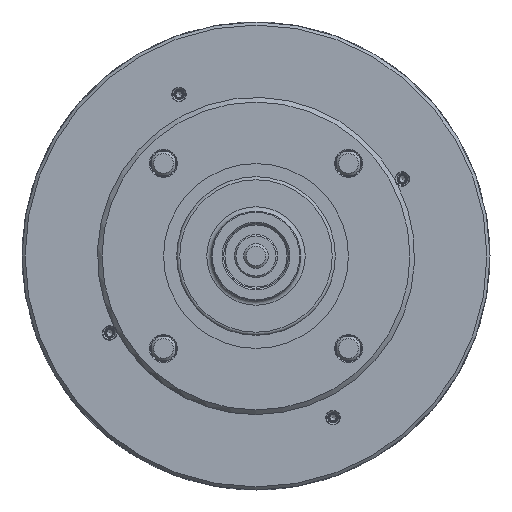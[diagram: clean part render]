
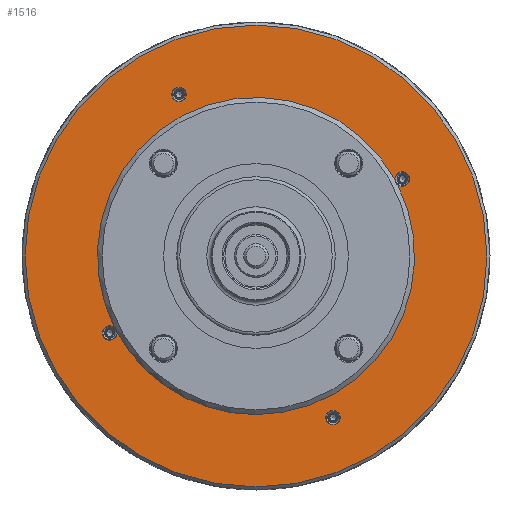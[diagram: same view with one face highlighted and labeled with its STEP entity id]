
A CAD part, left-side view. The second image highlights one B-rep face of the part: STEP entity #1516.
In plain terms, the highlighted planar face has unit normal (-1, 0, 0).
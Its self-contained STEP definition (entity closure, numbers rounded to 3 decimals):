
#691 = AXIS2_PLACEMENT_3D ( 'NONE', #88157, #54325, #10406 ) ;
#1516 = ADVANCED_FACE ( 'NONE', ( #65347, #99688, #5075, #109248 ), #22527, .F. ) ;
#4771 = CARTESIAN_POINT ( 'NONE',  ( -107., 0., 0. ) ) ;
#5075 = FACE_OUTER_BOUND ( 'NONE', #24438, .T. ) ;
#8503 = EDGE_CURVE ( 'NONE', #103588, #108823, #17293, .T. ) ;
#9232 = CARTESIAN_POINT ( 'NONE',  ( -107., -50., -105. ) ) ;
#10406 = DIRECTION ( 'NONE',  ( 0., 0., -1. ) ) ;
#10868 = CARTESIAN_POINT ( 'NONE',  ( -107., 50., 100.25 ) ) ;
#12436 = VERTEX_POINT ( 'NONE', #52125 ) ;
#12660 = DIRECTION ( 'NONE',  ( 0., 0., -1. ) ) ;
#13318 = CIRCLE ( 'NONE', #691, 4.75 ) ;
#13773 = EDGE_CURVE ( 'NONE', #108823, #12436, #48960, .T. ) ;
#15724 = CARTESIAN_POINT ( 'NONE',  ( -107., -103., 0. ) ) ;
#16125 = CIRCLE ( 'NONE', #79106, 4.75 ) ;
#17293 = CIRCLE ( 'NONE', #20913, 103. ) ;
#18193 = CARTESIAN_POINT ( 'NONE',  ( -107., 0., -150. ) ) ;
#19047 = VERTEX_POINT ( 'NONE', #42834 ) ;
#19636 = CIRCLE ( 'NONE', #100609, 150. ) ;
#20565 = CARTESIAN_POINT ( 'NONE',  ( -107., -95., 50. ) ) ;
#20913 = AXIS2_PLACEMENT_3D ( 'NONE', #60033, #85431, #76975 ) ;
#21948 = CARTESIAN_POINT ( 'NONE',  ( -107., 95., -50. ) ) ;
#22208 = DIRECTION ( 'NONE',  ( 1., 0., 0. ) ) ;
#22527 = PLANE ( 'NONE',  #92422 ) ;
#23781 = ORIENTED_EDGE ( 'NONE', *, *, #46502, .F. ) ;
#24438 = EDGE_LOOP ( 'NONE', ( #23781 ) ) ;
#24505 = EDGE_CURVE ( 'NONE', #19047, #103588, #16125, .T. ) ;
#25244 = DIRECTION ( 'NONE',  ( 0., 0., -1. ) ) ;
#26650 = CARTESIAN_POINT ( 'NONE',  ( -107., 91.997, -46.319 ) ) ;
#28442 = DIRECTION ( 'NONE',  ( 1., 0., 0. ) ) ;
#31498 = DIRECTION ( 'NONE',  ( 1., 0., 0. ) ) ;
#34546 = ORIENTED_EDGE ( 'NONE', *, *, #80111, .T. ) ;
#36114 = VERTEX_POINT ( 'NONE', #70534 ) ;
#37315 = EDGE_LOOP ( 'NONE', ( #91706 ) ) ;
#42106 = EDGE_CURVE ( 'NONE', #52554, #52554, #13318, .T. ) ;
#42834 = CARTESIAN_POINT ( 'NONE',  ( -107., 90.266, -49.609 ) ) ;
#42984 = VERTEX_POINT ( 'NONE', #18193 ) ;
#44143 = ORIENTED_EDGE ( 'NONE', *, *, #13773, .T. ) ;
#46502 = EDGE_CURVE ( 'NONE', #42984, #42984, #19636, .T. ) ;
#48960 = CIRCLE ( 'NONE', #106528, 4.75 ) ;
#49488 = CIRCLE ( 'NONE', #62102, 4.75 ) ;
#52125 = CARTESIAN_POINT ( 'NONE',  ( -107., -91.997, 46.319 ) ) ;
#52554 = VERTEX_POINT ( 'NONE', #10868 ) ;
#54325 = DIRECTION ( 'NONE',  ( 1., 0., 0. ) ) ;
#60033 = CARTESIAN_POINT ( 'NONE',  ( -107., 0., 0. ) ) ;
#62102 = AXIS2_PLACEMENT_3D ( 'NONE', #9232, #70073, #80173 ) ;
#62831 = DIRECTION ( 'NONE',  ( 0., 0., -1. ) ) ;
#63160 = ORIENTED_EDGE ( 'NONE', *, *, #24505, .T. ) ;
#65347 = FACE_BOUND ( 'NONE', #68003, .T. ) ;
#68003 = EDGE_LOOP ( 'NONE', ( #34546 ) ) ;
#70073 = DIRECTION ( 'NONE',  ( 1., 0., 0. ) ) ;
#70534 = CARTESIAN_POINT ( 'NONE',  ( -107., -50., -109.75 ) ) ;
#72690 = CIRCLE ( 'NONE', #104980, 103. ) ;
#72954 = ORIENTED_EDGE ( 'NONE', *, *, #78720, .T. ) ;
#74374 = DIRECTION ( 'NONE',  ( 0., 0., -1. ) ) ;
#75408 = CARTESIAN_POINT ( 'NONE',  ( -107., -90.266, 49.609 ) ) ;
#76530 = CARTESIAN_POINT ( 'NONE',  ( -107., 0., 0. ) ) ;
#76975 = DIRECTION ( 'NONE',  ( 0., 0., -1. ) ) ;
#78720 = EDGE_CURVE ( 'NONE', #12436, #19047, #72690, .T. ) ;
#79106 = AXIS2_PLACEMENT_3D ( 'NONE', #21948, #31498, #100217 ) ;
#80111 = EDGE_CURVE ( 'NONE', #36114, #36114, #49488, .T. ) ;
#80173 = DIRECTION ( 'NONE',  ( 0., 0., -1. ) ) ;
#85431 = DIRECTION ( 'NONE',  ( 1., 0., 0. ) ) ;
#88157 = CARTESIAN_POINT ( 'NONE',  ( -107., 50., 105. ) ) ;
#91266 = DIRECTION ( 'NONE',  ( 1., 0., 0. ) ) ;
#91706 = ORIENTED_EDGE ( 'NONE', *, *, #42106, .T. ) ;
#92422 = AXIS2_PLACEMENT_3D ( 'NONE', #15724, #91266, #74374 ) ;
#96916 = EDGE_LOOP ( 'NONE', ( #72954, #63160, #97780, #44143 ) ) ;
#97780 = ORIENTED_EDGE ( 'NONE', *, *, #8503, .T. ) ;
#99688 = FACE_BOUND ( 'NONE', #37315, .T. ) ;
#100217 = DIRECTION ( 'NONE',  ( 0., 0., -1. ) ) ;
#100609 = AXIS2_PLACEMENT_3D ( 'NONE', #76530, #110860, #25244 ) ;
#103588 = VERTEX_POINT ( 'NONE', #26650 ) ;
#104980 = AXIS2_PLACEMENT_3D ( 'NONE', #4771, #22208, #12660 ) ;
#106528 = AXIS2_PLACEMENT_3D ( 'NONE', #20565, #28442, #62831 ) ;
#108823 = VERTEX_POINT ( 'NONE', #75408 ) ;
#109248 = FACE_BOUND ( 'NONE', #96916, .T. ) ;
#110860 = DIRECTION ( 'NONE',  ( 1., 0., 0. ) ) ;
